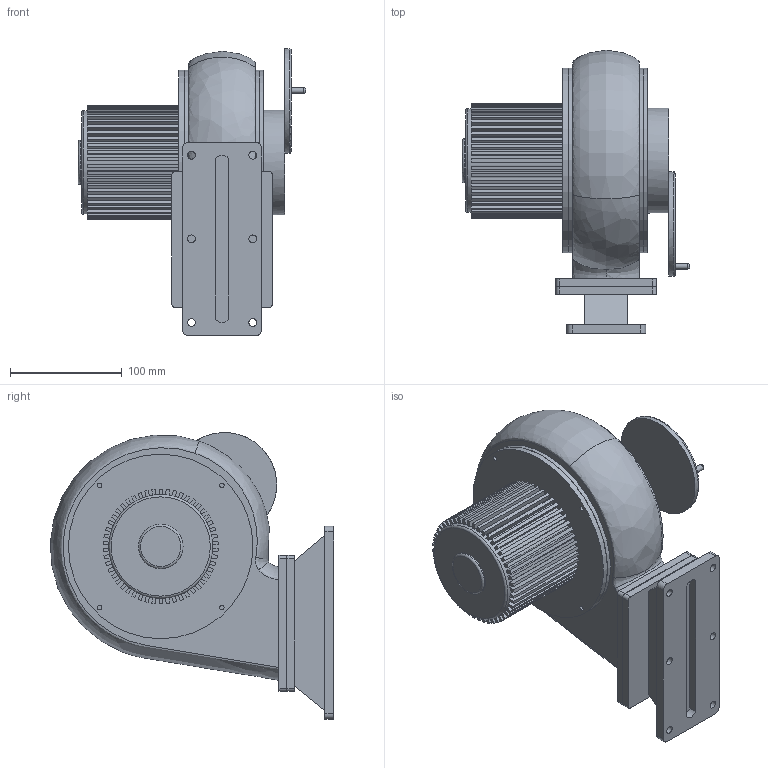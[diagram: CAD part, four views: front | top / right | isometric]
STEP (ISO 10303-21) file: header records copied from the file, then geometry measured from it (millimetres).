
FILE_DESCRIPTION(/* description */ ('Unknown'),/* implementation_level */ '2;1');
FILE_NAME(/* name */ '20200624 TS-202',/* time_stamp */ '2020-06-28T21:53:27+08:00',/* author */ ('å¤§èºè¨­è¨æéå¬å¸'),/* organization */ ('Unknown'),/* preprocessor_version */ 'ST-DEVELOPER v16.7',/* originating_system */ 'DEX',/* authorisation */ $);
FILE_SCHEMA (('AUTOMOTIVE_DESIGN {1 0 10303 214 3 1 1}'));
Length unit declared in the file: millimetre
Products named in the file (1): 20200624 TS-202
Bounding box: 204 x 253.92 x 257.05 mm (x, y, z)
Volume: 3421213.5 mm3; surface area: 251263.2 mm2
Topology: 1 solids, 1 shells, 299 faces, 828 edges, 550 vertices
Faces by surface type: plane 245, cylinder 38, bspline 8, torus 4, cone 4
Full cylindrical faces by diameter (mm): 4 x8, 5.025 x1, 7 x6, 40 x1, 86 x1, 93 x1, 94 x2, 165.377 x4
Entity records: 13120 total; most frequent: CARTESIAN_POINT 5446, ORIENTED_EDGE 1580, DIRECTION 1549, EDGE_CURVE 790, LINE 571, VECTOR 571, VERTEX_POINT 547, AXIS2_PLACEMENT_3D 489
